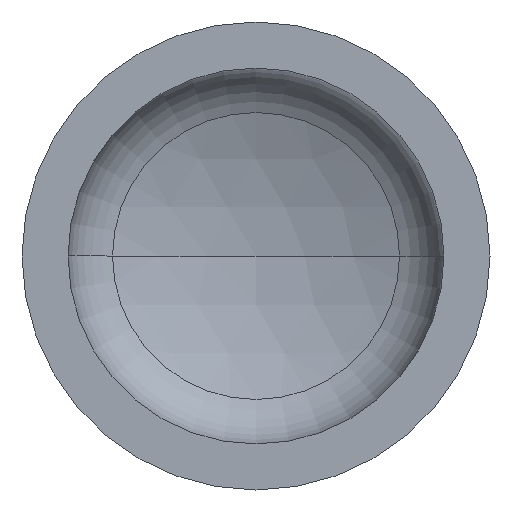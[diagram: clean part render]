
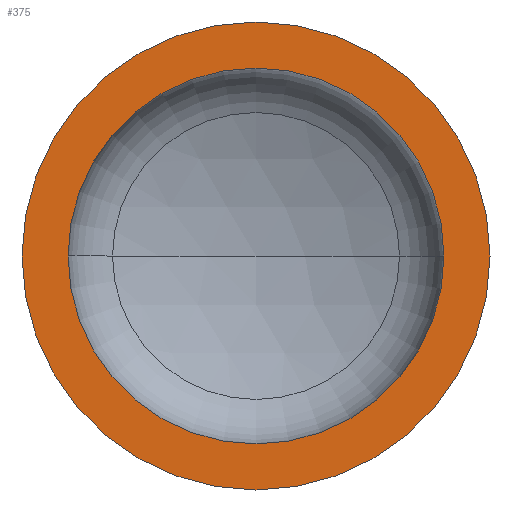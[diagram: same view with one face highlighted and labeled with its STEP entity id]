
A CAD part, front view. The second image highlights one B-rep face of the part: STEP entity #375.
In plain terms, the highlighted planar face has unit normal (0, -1, 0).
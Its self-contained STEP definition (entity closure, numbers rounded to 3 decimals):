
#3 = AXIS2_PLACEMENT_3D ( 'NONE', #294, #318, #180 ) ;
#9 = VERTEX_POINT ( 'NONE', #259 ) ;
#13 = CARTESIAN_POINT ( 'NONE',  ( 0., 0., 0. ) ) ;
#22 = DIRECTION ( 'NONE',  ( 0., -1., 0. ) ) ;
#25 = DIRECTION ( 'NONE',  ( 1., 0., 0. ) ) ;
#28 = DIRECTION ( 'NONE',  ( 0., -1., 0. ) ) ;
#32 = VERTEX_POINT ( 'NONE', #252 ) ;
#34 = ORIENTED_EDGE ( 'NONE', *, *, #162, .F. ) ;
#35 = CARTESIAN_POINT ( 'NONE',  ( 0., 0., 0. ) ) ;
#41 = PLANE ( 'NONE',  #3 ) ;
#54 = ORIENTED_EDGE ( 'NONE', *, *, #151, .F. ) ;
#62 = AXIS2_PLACEMENT_3D ( 'NONE', #271, #22, #289 ) ;
#77 = ORIENTED_EDGE ( 'NONE', *, *, #147, .T. ) ;
#94 = EDGE_LOOP ( 'NONE', ( #123, #77 ) ) ;
#95 = AXIS2_PLACEMENT_3D ( 'NONE', #13, #394, #268 ) ;
#108 = AXIS2_PLACEMENT_3D ( 'NONE', #35, #28, #25 ) ;
#109 = VERTEX_POINT ( 'NONE', #240 ) ;
#115 = EDGE_LOOP ( 'NONE', ( #54, #34 ) ) ;
#116 = AXIS2_PLACEMENT_3D ( 'NONE', #117, #307, #308 ) ;
#117 = CARTESIAN_POINT ( 'NONE',  ( 0., 0., 0. ) ) ;
#123 = ORIENTED_EDGE ( 'NONE', *, *, #334, .T. ) ;
#124 = CIRCLE ( 'NONE', #62, 600. ) ;
#137 = FACE_BOUND ( 'NONE', #115, .T. ) ;
#147 = EDGE_CURVE ( 'NONE', #204, #109, #359, .T. ) ;
#151 = EDGE_CURVE ( 'NONE', #32, #9, #302, .T. ) ;
#162 = EDGE_CURVE ( 'NONE', #9, #32, #292, .T. ) ;
#180 = DIRECTION ( 'NONE',  ( -1., 0., 0. ) ) ;
#204 = VERTEX_POINT ( 'NONE', #221 ) ;
#221 = CARTESIAN_POINT ( 'NONE',  ( -600., 0., 0. ) ) ;
#240 = CARTESIAN_POINT ( 'NONE',  ( 600., 0., 0. ) ) ;
#252 = CARTESIAN_POINT ( 'NONE',  ( 482., 0., 0. ) ) ;
#259 = CARTESIAN_POINT ( 'NONE',  ( -482., 0., 0. ) ) ;
#268 = DIRECTION ( 'NONE',  ( 1., 0., 0. ) ) ;
#271 = CARTESIAN_POINT ( 'NONE',  ( 0., 0., 0. ) ) ;
#289 = DIRECTION ( 'NONE',  ( 1., 0., 0. ) ) ;
#292 = CIRCLE ( 'NONE', #95, 482. ) ;
#294 = CARTESIAN_POINT ( 'NONE',  ( -600., 0., 0. ) ) ;
#302 = CIRCLE ( 'NONE', #108, 482. ) ;
#307 = DIRECTION ( 'NONE',  ( 0., -1., 0. ) ) ;
#308 = DIRECTION ( 'NONE',  ( 1., 0., 0. ) ) ;
#310 = FACE_OUTER_BOUND ( 'NONE', #94, .T. ) ;
#318 = DIRECTION ( 'NONE',  ( 0., 1., 0. ) ) ;
#334 = EDGE_CURVE ( 'NONE', #109, #204, #124, .T. ) ;
#359 = CIRCLE ( 'NONE', #116, 600. ) ;
#375 = ADVANCED_FACE ( 'NONE', ( #137, #310 ), #41, .F. ) ;
#394 = DIRECTION ( 'NONE',  ( 0., -1., 0. ) ) ;
